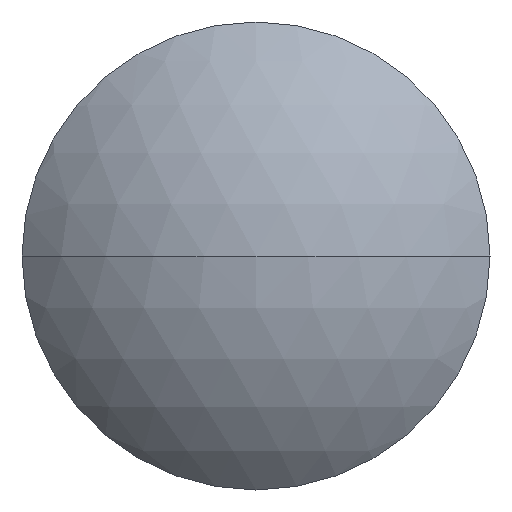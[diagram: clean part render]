
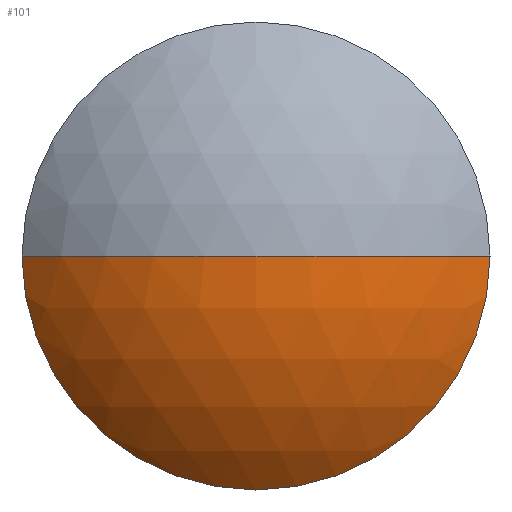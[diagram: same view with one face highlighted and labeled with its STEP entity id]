
A CAD part, left-side view. The second image highlights one B-rep face of the part: STEP entity #101.
In plain terms, the highlighted spherical face has radius 53.244 mm.
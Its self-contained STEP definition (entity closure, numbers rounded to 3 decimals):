
#2 = DIRECTION ( 'NONE',  ( 0., 0., 1. ) ) ;
#4 = CIRCLE ( 'NONE', #245, 53.244 ) ;
#13 = DIRECTION ( 'NONE',  ( -1., 0., 0. ) ) ;
#45 = EDGE_CURVE ( 'NONE', #338, #333, #237, .T. ) ;
#53 = FACE_OUTER_BOUND ( 'NONE', #149, .T. ) ;
#66 = CARTESIAN_POINT ( 'NONE',  ( -3., -38.05, 0. ) ) ;
#75 = ORIENTED_EDGE ( 'NONE', *, *, #136, .T. ) ;
#83 = DIRECTION ( 'NONE',  ( -1., 0., 0. ) ) ;
#86 = CARTESIAN_POINT ( 'NONE',  ( -3., 38.05, 0. ) ) ;
#99 = ORIENTED_EDGE ( 'NONE', *, *, #45, .T. ) ;
#101 = ADVANCED_FACE ( 'NONE', ( #53 ), #351, .T. ) ;
#104 = AXIS2_PLACEMENT_3D ( 'NONE', #302, #108, #295 ) ;
#108 = DIRECTION ( 'NONE',  ( 0., 0., -1. ) ) ;
#136 = EDGE_CURVE ( 'NONE', #333, #308, #4, .T. ) ;
#141 = CARTESIAN_POINT ( 'NONE',  ( 34.244, 0., 0. ) ) ;
#142 = DIRECTION ( 'NONE',  ( 1., 0., 0. ) ) ;
#146 = DIRECTION ( 'NONE',  ( 0., 0., 1. ) ) ;
#147 = VERTEX_POINT ( 'NONE', #86 ) ;
#149 = EDGE_LOOP ( 'NONE', ( #153, #99, #75, #197 ) ) ;
#153 = ORIENTED_EDGE ( 'NONE', *, *, #254, .T. ) ;
#155 = DIRECTION ( 'NONE',  ( 0., 1., 0. ) ) ;
#164 = CARTESIAN_POINT ( 'NONE',  ( -19., 0., 0. ) ) ;
#183 = AXIS2_PLACEMENT_3D ( 'NONE', #281, #13, #331 ) ;
#190 = CARTESIAN_POINT ( 'NONE',  ( -3., 0., -38.05 ) ) ;
#197 = ORIENTED_EDGE ( 'NONE', *, *, #334, .F. ) ;
#227 = CIRCLE ( 'NONE', #183, 38.05 ) ;
#237 = CIRCLE ( 'NONE', #347, 38.05 ) ;
#245 = AXIS2_PLACEMENT_3D ( 'NONE', #269, #321, #155 ) ;
#254 = EDGE_CURVE ( 'NONE', #147, #338, #227, .T. ) ;
#269 = CARTESIAN_POINT ( 'NONE',  ( 34.244, 0., 0. ) ) ;
#281 = CARTESIAN_POINT ( 'NONE',  ( -3., 0., 0. ) ) ;
#295 = DIRECTION ( 'NONE',  ( 0., 1., 0. ) ) ;
#297 = CARTESIAN_POINT ( 'NONE',  ( -3., 0., 0. ) ) ;
#300 = CIRCLE ( 'NONE', #324, 53.244 ) ;
#302 = CARTESIAN_POINT ( 'NONE',  ( 34.244, 0., 0. ) ) ;
#308 = VERTEX_POINT ( 'NONE', #164 ) ;
#321 = DIRECTION ( 'NONE',  ( 0., 0., -1. ) ) ;
#324 = AXIS2_PLACEMENT_3D ( 'NONE', #141, #146, #142 ) ;
#331 = DIRECTION ( 'NONE',  ( 0., 0., 1. ) ) ;
#333 = VERTEX_POINT ( 'NONE', #66 ) ;
#334 = EDGE_CURVE ( 'NONE', #147, #308, #300, .T. ) ;
#338 = VERTEX_POINT ( 'NONE', #190 ) ;
#347 = AXIS2_PLACEMENT_3D ( 'NONE', #297, #83, #2 ) ;
#351 = SPHERICAL_SURFACE ( 'NONE', #104, 53.244 ) ;
